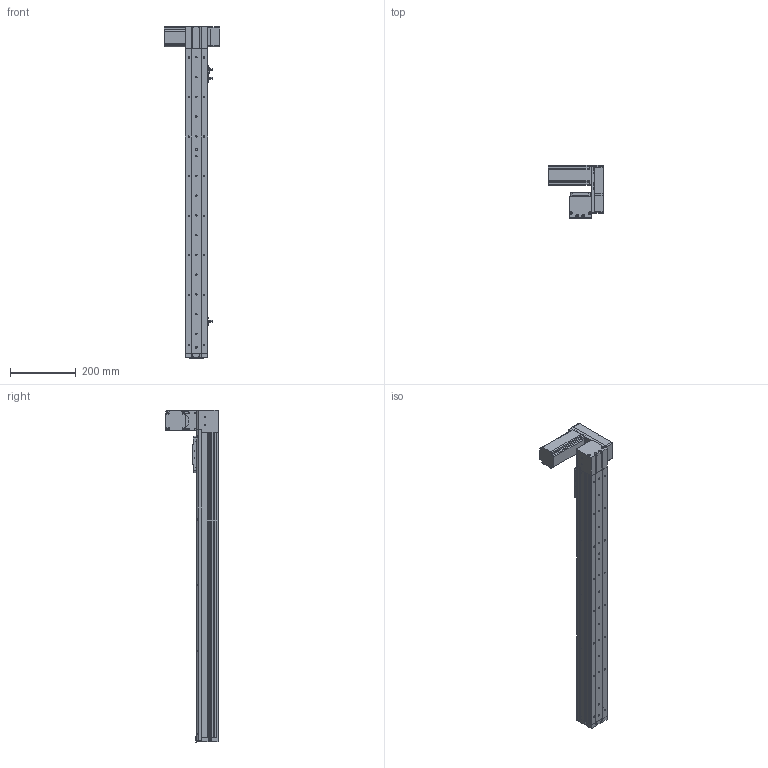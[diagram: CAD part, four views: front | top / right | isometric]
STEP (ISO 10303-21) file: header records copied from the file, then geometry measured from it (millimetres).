
FILE_DESCRIPTION (( 'STEP AP214' ), '1' );
FILE_NAME ('KSD68BS-S750-MLU-CR.STEP', '2019-11-07T07:38:38', ( '微软用户' ), ( '微软中国' ), 'SwSTEP 2.0', 'SolidWorks 2014', '' );
FILE_SCHEMA (( 'AUTOMOTIVE_DESIGN' ));
Length unit declared in the file: millimetre
Products named in the file (14): 68单导轨全封闭同步带安装板; 悵誘欶奻狟殏; 68宽马达安装板连板上折同步带; 感应片68宽全封闭; U倰嫖萇EEㄜSX672; 台达ECMA－C20604AS伺服电机（400W); KSD68BS 750行程底板全封闭; KSD68BS-S750-MLU-CR; KSD68BS 750行程盖板全封闭; 68遵裔啣揤啣1; 68宽单导轨全封闭丝杆传动安装板1防护罩; KSD68BS 750行程侧板全封闭; 68宽单导轨全封闭同步带端板; 68单导轨全封闭同步带电机座左
Assembly tree (17 placements, depth 2):
  KSD68BS-S750-MLU-CR
    KSD68BS 750行程底板全封闭
    台达ECMA－C20604AS伺服电机（400W)
    U倰嫖萇EEㄜSX672  x3
    感应片68宽全封闭
    68宽马达安装板连板上折同步带
    悵誘欶奻狟殏
    68单导轨全封闭同步带安装板
    68单导轨全封闭同步带电机座左
    68宽单导轨全封闭同步带端板
    KSD68BS 750行程侧板全封闭  x2
    68宽单导轨全封闭丝杆传动安装板1防护罩
    68遵裔啣揤啣1  x2
    KSD68BS 750行程盖板全封闭
Bounding box: 167.2 x 159.5 x 1008.1 mm (x, y, z)
Volume: 2199688.4 mm3; surface area: 813021.1 mm2
Topology: 18 solids, 18 shells, 1457 faces, 4127 edges, 2646 vertices
Faces by surface type: cylinder 680, plane 625, cone 152
Entity records: 45867 total; most frequent: CARTESIAN_POINT 7831, DIRECTION 6892, ORIENTED_EDGE 6598, EDGE_CURVE 3299, AXIS2_PLACEMENT_3D 2475, VERTEX_POINT 2164, VECTOR 1942, LINE 1942
